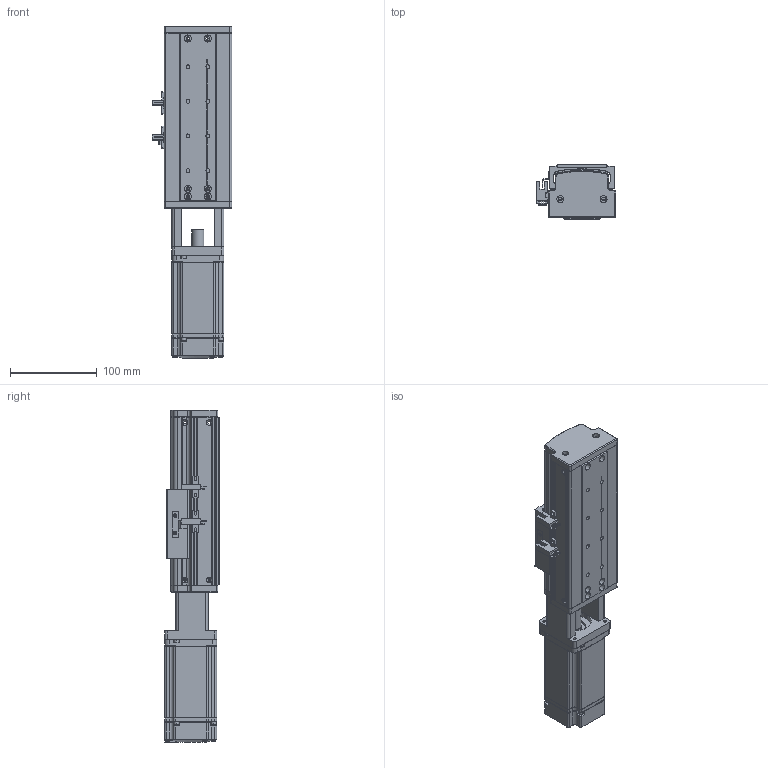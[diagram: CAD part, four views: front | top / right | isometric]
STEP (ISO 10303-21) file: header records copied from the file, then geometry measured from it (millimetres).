
FILE_DESCRIPTION (( 'STEP AP214' ), '1' );
FILE_NAME ('KSD75S-S40-MT-CM.STEP', '2019-10-18T07:27:18', ( '微软用户' ), ( '微软中国' ), 'SwSTEP 2.0', 'SolidWorks 2014', '' );
FILE_SCHEMA (( 'AUTOMOTIVE_DESIGN' ));
Length unit declared in the file: millimetre
Products named in the file (12): 75遵耀郪耜啣-40俴最; 75遵賑雄釱; MGW15H賑寢40俴最 ; MGW15H賑寢40俴最; KSD75S-S40-MT-CM; MHMD042G1CA_2_03; 覜茼え100遵圉猾敕; U倰嫖萇EEㄜSX672; 綴傷啣 ; 100遵鎮湛假蚾啣1 ; ヶ傷啣; 75裔啣-40俴最
Assembly tree (13 placements, depth 3):
  KSD75S-S40-MT-CM
    MGW15H賑寢40俴最 
      MGW15H賑寢40俴最
    75遵賑雄釱
    75遵耀郪耜啣-40俴最  x2
    75裔啣-40俴最
    ヶ傷啣
    100遵鎮湛假蚾啣1 
    綴傷啣 
    U倰嫖萇EEㄜSX672  x2
    覜茼え100遵圉猾敕
    MHMD042G1CA_2_03
Bounding box: 91.7 x 63 x 383.5 mm (x, y, z)
Volume: 431054.2 mm3; surface area: 265261.6 mm2
Topology: 11 solids, 12 shells, 1216 faces, 3483 edges, 2263 vertices
Faces by surface type: cylinder 558, plane 511, cone 129, bspline 18
Entity records: 42424 total; most frequent: CARTESIAN_POINT 8146, DIRECTION 6131, ORIENTED_EDGE 5810, EDGE_CURVE 2976, AXIS2_PLACEMENT_3D 2215, VERTEX_POINT 1969, VECTOR 1701, LINE 1701
